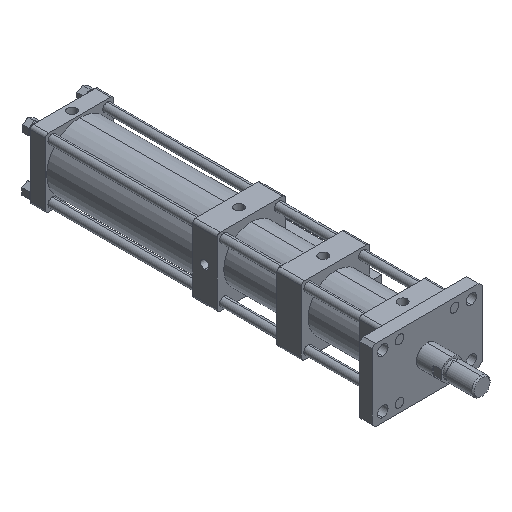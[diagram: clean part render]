
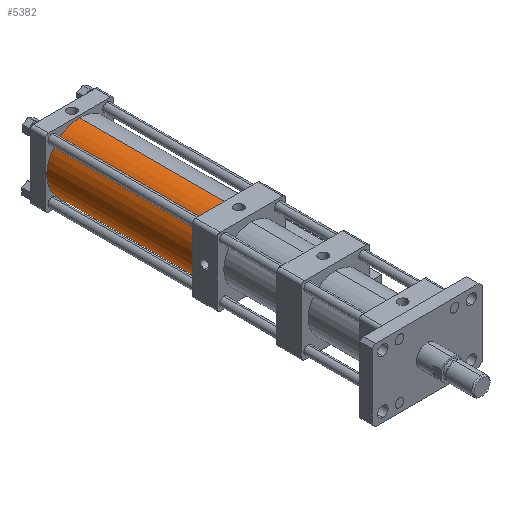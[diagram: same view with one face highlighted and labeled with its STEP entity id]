
A CAD part, isometric view. The second image highlights one B-rep face of the part: STEP entity #5382.
In plain terms, the highlighted cylindrical face has radius 54 mm (diameter 108 mm), a partial arc.
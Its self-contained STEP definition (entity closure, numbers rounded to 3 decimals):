
#357 = EDGE_CURVE ( 'NONE', #3782, #4987, #2079, .T. ) ;
#612 = CARTESIAN_POINT ( 'NONE',  ( 0., 328.002, -55.638 ) ) ;
#681 = EDGE_CURVE ( 'NONE', #7776, #3782, #1396, .T. ) ;
#783 = VECTOR ( 'NONE', #6612, 1000. ) ;
#963 = LINE ( 'NONE', #2286, #783 ) ;
#968 = FACE_OUTER_BOUND ( 'NONE', #4003, .T. ) ;
#1396 = LINE ( 'NONE', #7036, #4496 ) ;
#1547 = CARTESIAN_POINT ( 'NONE',  ( 0., 569.002, -1.638 ) ) ;
#1636 = CIRCLE ( 'NONE', #6359, 54. ) ;
#2079 = CIRCLE ( 'NONE', #2346, 54. ) ;
#2278 = DIRECTION ( 'NONE',  ( 0., 1., 0. ) ) ;
#2286 = CARTESIAN_POINT ( 'NONE',  ( 0., 569.002, 52.362 ) ) ;
#2346 = AXIS2_PLACEMENT_3D ( 'NONE', #3254, #7557, #3878 ) ;
#2394 = CYLINDRICAL_SURFACE ( 'NONE', #6068, 54. ) ;
#2520 = ORIENTED_EDGE ( 'NONE', *, *, #5477, .F. ) ;
#3100 = ORIENTED_EDGE ( 'NONE', *, *, #357, .T. ) ;
#3168 = ORIENTED_EDGE ( 'NONE', *, *, #681, .T. ) ;
#3254 = CARTESIAN_POINT ( 'NONE',  ( 0., 328.002, -1.638 ) ) ;
#3388 = DIRECTION ( 'NONE',  ( 0., -1., 0. ) ) ;
#3782 = VERTEX_POINT ( 'NONE', #612 ) ;
#3827 = ORIENTED_EDGE ( 'NONE', *, *, #5832, .F. ) ;
#3878 = DIRECTION ( 'NONE',  ( 0., 0., 1. ) ) ;
#3964 = DIRECTION ( 'NONE',  ( 0., -1., 0. ) ) ;
#4003 = EDGE_LOOP ( 'NONE', ( #3827, #2520, #3168, #3100 ) ) ;
#4150 = CARTESIAN_POINT ( 'NONE',  ( 0., 569.002, 52.362 ) ) ;
#4496 = VECTOR ( 'NONE', #3964, 1000. ) ;
#4875 = CARTESIAN_POINT ( 'NONE',  ( 0., 569.002, -55.638 ) ) ;
#4987 = VERTEX_POINT ( 'NONE', #7305 ) ;
#5382 = ADVANCED_FACE ( 'NONE', ( #968 ), #2394, .T. ) ;
#5477 = EDGE_CURVE ( 'NONE', #7776, #5510, #1636, .T. ) ;
#5510 = VERTEX_POINT ( 'NONE', #4150 ) ;
#5832 = EDGE_CURVE ( 'NONE', #5510, #4987, #963, .T. ) ;
#5976 = CARTESIAN_POINT ( 'NONE',  ( 0., 569.002, -1.638 ) ) ;
#6068 = AXIS2_PLACEMENT_3D ( 'NONE', #1547, #3388, #7078 ) ;
#6359 = AXIS2_PLACEMENT_3D ( 'NONE', #5976, #2278, #6598 ) ;
#6598 = DIRECTION ( 'NONE',  ( 0., 0., 1. ) ) ;
#6612 = DIRECTION ( 'NONE',  ( 0., -1., 0. ) ) ;
#7036 = CARTESIAN_POINT ( 'NONE',  ( 0., 569.002, -55.638 ) ) ;
#7078 = DIRECTION ( 'NONE',  ( 0., 0., -1. ) ) ;
#7305 = CARTESIAN_POINT ( 'NONE',  ( 0., 328.002, 52.362 ) ) ;
#7557 = DIRECTION ( 'NONE',  ( 0., 1., 0. ) ) ;
#7776 = VERTEX_POINT ( 'NONE', #4875 ) ;
